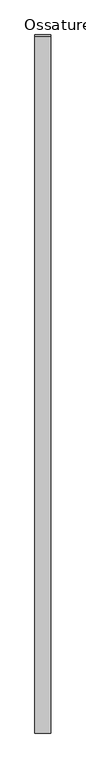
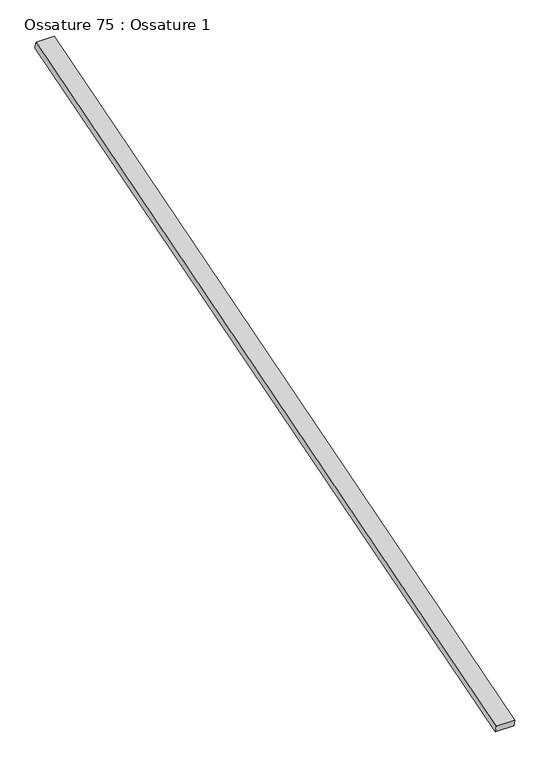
"""IFC4 building model written with IfcOpenShell, lengths in millimetres: beam geometry, Ossature 75 : Ossature 1."""

from ifc_helpers import new_model, si_unit, frame, origin, place, context, project, spatial, polyline, outline, extrude, source, transform, mapped, element, save


def ossature_75_ossature_1_d25f2bcb(model_context):
    return source(origin(), model_context, "Body", "SweptSolid", [
        extrude(outline(polyline([(0.0, 0.0), (0.0, -4543.0299679), (-100.0, -4543.0299679), (-100.0, 0.0), (0.0, 0.0)])), frame((18150.6466393, -833.3913565, 8153.6336115), z_axis=(0.0, -0.28734788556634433, 0.9578262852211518), x_axis=(-1.0, 0.0, 0.0)), (0.0, 0.0, 1.0), 40.0),
    ])


if __name__ == "__main__":
    model = new_model("IFC4")
    model_context = context("Model", 3, world=origin())
    ifc_project = project(units=[si_unit("LENGTHUNIT", "METRE", prefix="MILLI")], contexts=[model_context])
    site = spatial("IfcSite", under=ifc_project)
    building = spatial("IfcBuilding", under=site)
    placement = place(None, origin())
    ossature_75_ossature_1_shape = ossature_75_ossature_1_d25f2bcb(model_context)
    element("IfcBeam", 1, ObjectType="Ossature 75 : Ossature 1", at=placement, inside=building, context=model_context, shape_type="MappedRepresentation", body=[
        mapped(ossature_75_ossature_1_shape, transform((0.0, 0.0, 0.0), x_axis=(1.0, 0.0, 0.0), y_axis=(0.0, 1.0, 0.0), z_axis=(0.0, 0.0, 1.0))),
    ])
    save(model, "model.ifc")
